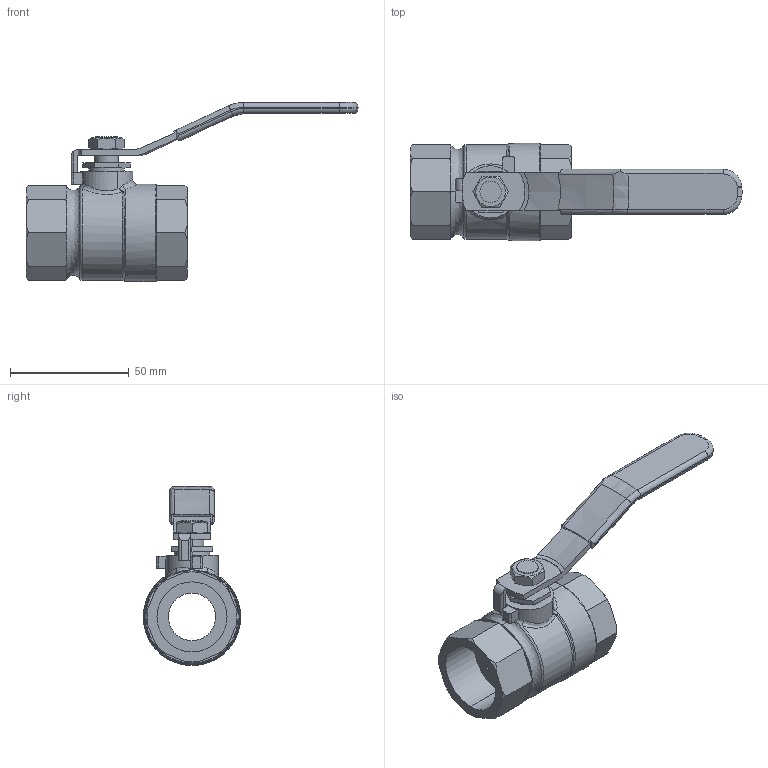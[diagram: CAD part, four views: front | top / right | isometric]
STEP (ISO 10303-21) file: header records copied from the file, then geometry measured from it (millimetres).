
FILE_DESCRIPTION( (''), '2;1');
FILE_NAME ('PC2091.14996.25A_1293.stp','2026-05-28T08:43:22',(''),(''),'spGate 21.9.4 (****-****-****-****)','','');
FILE_SCHEMA (('AUTOMOTIVE_DESIGN'));
Length unit declared in the file: millimetre
Bounding box: 140 x 41 x 75.5 mm (x, y, z)
Volume: 61915.8 mm3; surface area: 22170.1 mm2
Topology: 1 solids, 1 shells, 187 faces, 484 edges, 299 vertices
Faces by surface type: plane 78, bspline 66, cylinder 39, sphere 4
Entity records: 10724 total; most frequent: CARTESIAN_POINT 2985, ORIENTED_EDGE 956, DIRECTION 688, COLOUR_RGB 666, PRESENTATION_STYLE_ASSIGNMENT 666, STYLED_ITEM 666, EDGE_CURVE 478, DRAUGHTING_PRE_DEFINED_CURVE_FONT 478
